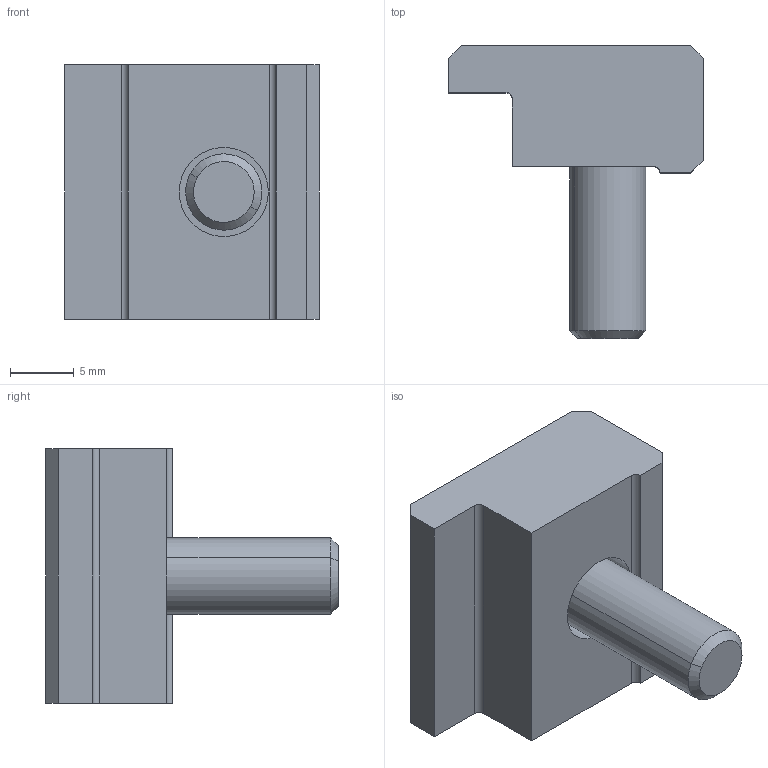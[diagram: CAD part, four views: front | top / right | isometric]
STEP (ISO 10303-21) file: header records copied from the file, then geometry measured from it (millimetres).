
FILE_DESCRIPTION(('CATIA V5 STEP Exchange','CAx-IF Rec.Pracs.--- Model Styling and Organization---1.5--- 2016-08-15','CAx-IF Rec.Pracs.---Supplemental Geometry---1.0---2011-11-01','CAx-IF Rec.Pracs.--- Composite Materials ---1.1---2010-07-15','CAx-IF Rec.Pracs.---External References---2.1---2005-01-19'),'2;1');
FILE_NAME('E:\WAT\Sprezarka\121_00_00_Tlocznik1\Tlocznik1_KPL\Tlocznik1_stp\2072_45_10.stp','2023-08-01T08:49:43+00:00',('none'),('none'),'CATIA Version 5-6 Release 2022 SP3','CATIA V5 STEP AP214 v2','none');
FILE_SCHEMA(('AUTOMOTIVE_DESIGN { 1 0 10303 214 1 1 1 1 }'));
Length unit declared in the file: millimetre
Products named in the file (1): 2072_45_10
Bounding box: 20 x 23 x 20 mm (x, y, z)
Volume: 3276.8 mm3; surface area: 2345.2 mm2
Topology: 1 solids, 1 shells, 35 faces, 82 edges, 54 vertices
Faces by surface type: plane 23, cylinder 10, cone 2
Entity records: 971 total; most frequent: CARTESIAN_POINT 166, ORIENTED_EDGE 164, DIRECTION 140, EDGE_CURVE 82, VECTOR 60, LINE 60, VERTEX_POINT 54, AXIS2_PLACEMENT_3D 52
